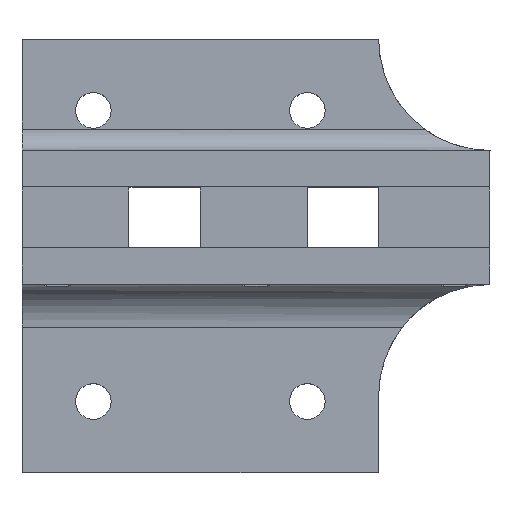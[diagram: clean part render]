
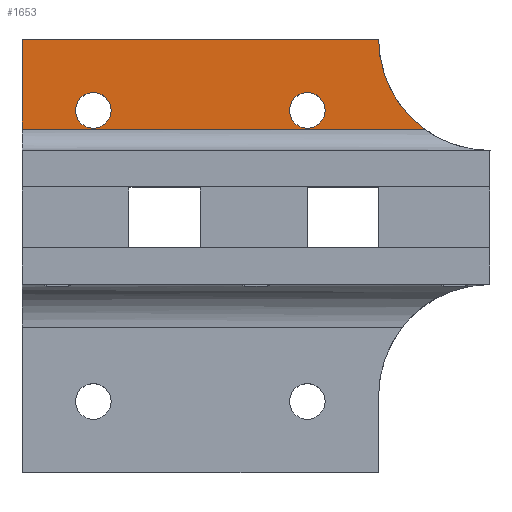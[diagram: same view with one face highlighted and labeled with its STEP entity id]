
A CAD part, top view. The second image highlights one B-rep face of the part: STEP entity #1653.
In plain terms, the highlighted planar face has unit normal (0, 0, 1).
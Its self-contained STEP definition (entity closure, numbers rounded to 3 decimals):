
#33 = PLANE('',#34);
#34 = AXIS2_PLACEMENT_3D('',#35,#36,#37);
#35 = CARTESIAN_POINT('',(-25.,-35.8,0.));
#36 = DIRECTION('',(-1.,0.,0.));
#37 = DIRECTION('',(0.,1.,0.));
#246 = VERTEX_POINT('',#247);
#247 = CARTESIAN_POINT('',(-25.,12.386,9.));
#262 = CYLINDRICAL_SURFACE('',#263,3.);
#263 = AXIS2_PLACEMENT_3D('',#264,#265,#266);
#264 = CARTESIAN_POINT('',(40.614,12.386,12.));
#265 = DIRECTION('',(-1.,0.,0.));
#266 = DIRECTION('',(0.,0.,-1.));
#274 = EDGE_CURVE('',#246,#275,#277,.T.);
#275 = VERTEX_POINT('',#276);
#276 = CARTESIAN_POINT('',(-25.,25.,9.));
#277 = SURFACE_CURVE('',#278,(#282,#288),.PCURVE_S1.);
#278 = LINE('',#279,#280);
#279 = CARTESIAN_POINT('',(-25.,-3.207,9.));
#280 = VECTOR('',#281,1.);
#281 = DIRECTION('',(0.,1.,0.));
#282 = PCURVE('',#33,#283);
#283 = DEFINITIONAL_REPRESENTATION('',(#284),#287);
#284 = B_SPLINE_CURVE_WITH_KNOTS('',1,(#285,#286),.UNSPECIFIED.,.F.,.F.,
  (2,2),(12.593,28.207),.PIECEWISE_BEZIER_KNOTS.);
#285 = CARTESIAN_POINT('',(45.186,-9.));
#286 = CARTESIAN_POINT('',(60.8,-9.));
#287 = ( GEOMETRIC_REPRESENTATION_CONTEXT(2) 
PARAMETRIC_REPRESENTATION_CONTEXT() REPRESENTATION_CONTEXT('2D SPACE',''
  ) );
#288 = PCURVE('',#289,#294);
#289 = PLANE('',#290);
#290 = AXIS2_PLACEMENT_3D('',#291,#292,#293);
#291 = CARTESIAN_POINT('',(-29.386,29.386,9.));
#292 = DIRECTION('',(0.,0.,1.));
#293 = DIRECTION('',(1.,0.,0.));
#294 = DEFINITIONAL_REPRESENTATION('',(#295),#298);
#295 = B_SPLINE_CURVE_WITH_KNOTS('',1,(#296,#297),.UNSPECIFIED.,.F.,.F.,
  (2,2),(12.593,28.207),.PIECEWISE_BEZIER_KNOTS.);
#296 = CARTESIAN_POINT('',(4.386,-20.));
#297 = CARTESIAN_POINT('',(4.386,-4.386));
#298 = ( GEOMETRIC_REPRESENTATION_CONTEXT(2) 
PARAMETRIC_REPRESENTATION_CONTEXT() REPRESENTATION_CONTEXT('2D SPACE',''
  ) );
#316 = PLANE('',#317);
#317 = AXIS2_PLACEMENT_3D('',#318,#319,#320);
#318 = CARTESIAN_POINT('',(-25.,25.,0.));
#319 = DIRECTION('',(0.,1.,0.));
#320 = DIRECTION('',(1.,0.,0.));
#1264 = CYLINDRICAL_SURFACE('',#1265,15.614);
#1265 = AXIS2_PLACEMENT_3D('',#1266,#1267,#1268);
#1266 = CARTESIAN_POINT('',(40.614,25.,0.));
#1267 = DIRECTION('',(-0.,-0.,-1.));
#1268 = DIRECTION('',(1.,0.,0.));
#1414 = CYLINDRICAL_SURFACE('',#1415,2.5);
#1415 = AXIS2_PLACEMENT_3D('',#1416,#1417,#1418);
#1416 = CARTESIAN_POINT('',(-15.,15.,0.));
#1417 = DIRECTION('',(-0.,-0.,-1.));
#1418 = DIRECTION('',(1.,0.,0.));
#1569 = CYLINDRICAL_SURFACE('',#1570,2.5);
#1570 = AXIS2_PLACEMENT_3D('',#1571,#1572,#1573);
#1571 = CARTESIAN_POINT('',(15.,15.,0.));
#1572 = DIRECTION('',(-0.,-0.,-1.));
#1573 = DIRECTION('',(1.,0.,0.));
#1612 = EDGE_CURVE('',#275,#1613,#1615,.T.);
#1613 = VERTEX_POINT('',#1614);
#1614 = CARTESIAN_POINT('',(25.,25.,9.));
#1615 = SURFACE_CURVE('',#1616,(#1620,#1626),.PCURVE_S1.);
#1616 = LINE('',#1617,#1618);
#1617 = CARTESIAN_POINT('',(-27.193,25.,9.));
#1618 = VECTOR('',#1619,1.);
#1619 = DIRECTION('',(1.,0.,0.));
#1620 = PCURVE('',#316,#1621);
#1621 = DEFINITIONAL_REPRESENTATION('',(#1622),#1625);
#1622 = B_SPLINE_CURVE_WITH_KNOTS('',1,(#1623,#1624),.UNSPECIFIED.,.F.,
  .F.,(2,2),(2.193,52.193),.PIECEWISE_BEZIER_KNOTS.);
#1623 = CARTESIAN_POINT('',(0.,-9.));
#1624 = CARTESIAN_POINT('',(50.,-9.));
#1625 = ( GEOMETRIC_REPRESENTATION_CONTEXT(2) 
PARAMETRIC_REPRESENTATION_CONTEXT() REPRESENTATION_CONTEXT('2D SPACE',''
  ) );
#1626 = PCURVE('',#289,#1627);
#1627 = DEFINITIONAL_REPRESENTATION('',(#1628),#1631);
#1628 = B_SPLINE_CURVE_WITH_KNOTS('',1,(#1629,#1630),.UNSPECIFIED.,.F.,
  .F.,(2,2),(2.193,52.193),.PIECEWISE_BEZIER_KNOTS.);
#1629 = CARTESIAN_POINT('',(4.386,-4.386));
#1630 = CARTESIAN_POINT('',(54.386,-4.386));
#1631 = ( GEOMETRIC_REPRESENTATION_CONTEXT(2) 
PARAMETRIC_REPRESENTATION_CONTEXT() REPRESENTATION_CONTEXT('2D SPACE',''
  ) );
#1653 = ADVANCED_FACE('',(#1654,#1707,#1737),#289,.T.);
#1654 = FACE_BOUND('',#1655,.T.);
#1655 = EDGE_LOOP('',(#1656,#1657,#1680,#1706));
#1656 = ORIENTED_EDGE('',*,*,#274,.F.);
#1657 = ORIENTED_EDGE('',*,*,#1658,.F.);
#1658 = EDGE_CURVE('',#1659,#246,#1661,.T.);
#1659 = VERTEX_POINT('',#1660);
#1660 = CARTESIAN_POINT('',(31.412,12.386,9.));
#1661 = SURFACE_CURVE('',#1662,(#1666,#1673),.PCURVE_S1.);
#1662 = LINE('',#1663,#1664);
#1663 = CARTESIAN_POINT('',(40.614,12.386,9.));
#1664 = VECTOR('',#1665,1.);
#1665 = DIRECTION('',(-1.,0.,0.));
#1666 = PCURVE('',#289,#1667);
#1667 = DEFINITIONAL_REPRESENTATION('',(#1668),#1672);
#1668 = LINE('',#1669,#1670);
#1669 = CARTESIAN_POINT('',(70.,-17.));
#1670 = VECTOR('',#1671,1.);
#1671 = DIRECTION('',(-1.,0.));
#1672 = ( GEOMETRIC_REPRESENTATION_CONTEXT(2) 
PARAMETRIC_REPRESENTATION_CONTEXT() REPRESENTATION_CONTEXT('2D SPACE',''
  ) );
#1673 = PCURVE('',#262,#1674);
#1674 = DEFINITIONAL_REPRESENTATION('',(#1675),#1679);
#1675 = LINE('',#1676,#1677);
#1676 = CARTESIAN_POINT('',(0.,0.));
#1677 = VECTOR('',#1678,1.);
#1678 = DIRECTION('',(0.,1.));
#1679 = ( GEOMETRIC_REPRESENTATION_CONTEXT(2) 
PARAMETRIC_REPRESENTATION_CONTEXT() REPRESENTATION_CONTEXT('2D SPACE',''
  ) );
#1680 = ORIENTED_EDGE('',*,*,#1681,.T.);
#1681 = EDGE_CURVE('',#1659,#1613,#1682,.T.);
#1682 = SURFACE_CURVE('',#1683,(#1688,#1699),.PCURVE_S1.);
#1683 = CIRCLE('',#1684,15.614);
#1684 = AXIS2_PLACEMENT_3D('',#1685,#1686,#1687);
#1685 = CARTESIAN_POINT('',(40.614,25.,9.));
#1686 = DIRECTION('',(0.,0.,-1.));
#1687 = DIRECTION('',(1.,0.,0.));
#1688 = PCURVE('',#289,#1689);
#1689 = DEFINITIONAL_REPRESENTATION('',(#1690),#1698);
#1690 = ( BOUNDED_CURVE() B_SPLINE_CURVE(2,(#1691,#1692,#1693,#1694,
#1695,#1696,#1697),.UNSPECIFIED.,.F.,.F.) B_SPLINE_CURVE_WITH_KNOTS((1,2
    ,2,2,2,1),(-2.094,0.,2.094,4.189,
6.283,8.378),.UNSPECIFIED.) CURVE() 
GEOMETRIC_REPRESENTATION_ITEM() RATIONAL_B_SPLINE_CURVE((1.,0.5,1.,0.5,
1.,0.5,1.)) REPRESENTATION_ITEM('') );
#1691 = CARTESIAN_POINT('',(85.614,-4.386));
#1692 = CARTESIAN_POINT('',(85.614,-31.43));
#1693 = CARTESIAN_POINT('',(62.193,-17.908));
#1694 = CARTESIAN_POINT('',(38.771,-4.386));
#1695 = CARTESIAN_POINT('',(62.193,9.137));
#1696 = CARTESIAN_POINT('',(85.614,22.659));
#1697 = CARTESIAN_POINT('',(85.614,-4.386));
#1698 = ( GEOMETRIC_REPRESENTATION_CONTEXT(2) 
PARAMETRIC_REPRESENTATION_CONTEXT() REPRESENTATION_CONTEXT('2D SPACE',''
  ) );
#1699 = PCURVE('',#1264,#1700);
#1700 = DEFINITIONAL_REPRESENTATION('',(#1701),#1705);
#1701 = LINE('',#1702,#1703);
#1702 = CARTESIAN_POINT('',(-6.283,-9.));
#1703 = VECTOR('',#1704,1.);
#1704 = DIRECTION('',(1.,-0.));
#1705 = ( GEOMETRIC_REPRESENTATION_CONTEXT(2) 
PARAMETRIC_REPRESENTATION_CONTEXT() REPRESENTATION_CONTEXT('2D SPACE',''
  ) );
#1706 = ORIENTED_EDGE('',*,*,#1612,.F.);
#1707 = FACE_BOUND('',#1708,.T.);
#1708 = EDGE_LOOP('',(#1709));
#1709 = ORIENTED_EDGE('',*,*,#1710,.T.);
#1710 = EDGE_CURVE('',#1711,#1711,#1713,.T.);
#1711 = VERTEX_POINT('',#1712);
#1712 = CARTESIAN_POINT('',(-12.5,15.,9.));
#1713 = SURFACE_CURVE('',#1714,(#1719,#1730),.PCURVE_S1.);
#1714 = CIRCLE('',#1715,2.5);
#1715 = AXIS2_PLACEMENT_3D('',#1716,#1717,#1718);
#1716 = CARTESIAN_POINT('',(-15.,15.,9.));
#1717 = DIRECTION('',(0.,0.,-1.));
#1718 = DIRECTION('',(1.,0.,0.));
#1719 = PCURVE('',#289,#1720);
#1720 = DEFINITIONAL_REPRESENTATION('',(#1721),#1729);
#1721 = ( BOUNDED_CURVE() B_SPLINE_CURVE(2,(#1722,#1723,#1724,#1725,
#1726,#1727,#1728),.UNSPECIFIED.,.F.,.F.) B_SPLINE_CURVE_WITH_KNOTS((1,2
    ,2,2,2,1),(-2.094,0.,2.094,4.189,
6.283,8.378),.UNSPECIFIED.) CURVE() 
GEOMETRIC_REPRESENTATION_ITEM() RATIONAL_B_SPLINE_CURVE((1.,0.5,1.,0.5,
1.,0.5,1.)) REPRESENTATION_ITEM('') );
#1722 = CARTESIAN_POINT('',(16.886,-14.386));
#1723 = CARTESIAN_POINT('',(16.886,-18.716));
#1724 = CARTESIAN_POINT('',(13.136,-16.551));
#1725 = CARTESIAN_POINT('',(9.386,-14.386));
#1726 = CARTESIAN_POINT('',(13.136,-12.221));
#1727 = CARTESIAN_POINT('',(16.886,-10.056));
#1728 = CARTESIAN_POINT('',(16.886,-14.386));
#1729 = ( GEOMETRIC_REPRESENTATION_CONTEXT(2) 
PARAMETRIC_REPRESENTATION_CONTEXT() REPRESENTATION_CONTEXT('2D SPACE',''
  ) );
#1730 = PCURVE('',#1414,#1731);
#1731 = DEFINITIONAL_REPRESENTATION('',(#1732),#1736);
#1732 = LINE('',#1733,#1734);
#1733 = CARTESIAN_POINT('',(-6.283,-9.));
#1734 = VECTOR('',#1735,1.);
#1735 = DIRECTION('',(1.,-0.));
#1736 = ( GEOMETRIC_REPRESENTATION_CONTEXT(2) 
PARAMETRIC_REPRESENTATION_CONTEXT() REPRESENTATION_CONTEXT('2D SPACE',''
  ) );
#1737 = FACE_BOUND('',#1738,.T.);
#1738 = EDGE_LOOP('',(#1739));
#1739 = ORIENTED_EDGE('',*,*,#1740,.T.);
#1740 = EDGE_CURVE('',#1741,#1741,#1743,.T.);
#1741 = VERTEX_POINT('',#1742);
#1742 = CARTESIAN_POINT('',(17.5,15.,9.));
#1743 = SURFACE_CURVE('',#1744,(#1749,#1760),.PCURVE_S1.);
#1744 = CIRCLE('',#1745,2.5);
#1745 = AXIS2_PLACEMENT_3D('',#1746,#1747,#1748);
#1746 = CARTESIAN_POINT('',(15.,15.,9.));
#1747 = DIRECTION('',(0.,0.,-1.));
#1748 = DIRECTION('',(1.,0.,0.));
#1749 = PCURVE('',#289,#1750);
#1750 = DEFINITIONAL_REPRESENTATION('',(#1751),#1759);
#1751 = ( BOUNDED_CURVE() B_SPLINE_CURVE(2,(#1752,#1753,#1754,#1755,
#1756,#1757,#1758),.UNSPECIFIED.,.F.,.F.) B_SPLINE_CURVE_WITH_KNOTS((1,2
    ,2,2,2,1),(-2.094,0.,2.094,4.189,
6.283,8.378),.UNSPECIFIED.) CURVE() 
GEOMETRIC_REPRESENTATION_ITEM() RATIONAL_B_SPLINE_CURVE((1.,0.5,1.,0.5,
1.,0.5,1.)) REPRESENTATION_ITEM('') );
#1752 = CARTESIAN_POINT('',(46.886,-14.386));
#1753 = CARTESIAN_POINT('',(46.886,-18.716));
#1754 = CARTESIAN_POINT('',(43.136,-16.551));
#1755 = CARTESIAN_POINT('',(39.386,-14.386));
#1756 = CARTESIAN_POINT('',(43.136,-12.221));
#1757 = CARTESIAN_POINT('',(46.886,-10.056));
#1758 = CARTESIAN_POINT('',(46.886,-14.386));
#1759 = ( GEOMETRIC_REPRESENTATION_CONTEXT(2) 
PARAMETRIC_REPRESENTATION_CONTEXT() REPRESENTATION_CONTEXT('2D SPACE',''
  ) );
#1760 = PCURVE('',#1569,#1761);
#1761 = DEFINITIONAL_REPRESENTATION('',(#1762),#1766);
#1762 = LINE('',#1763,#1764);
#1763 = CARTESIAN_POINT('',(-6.283,-9.));
#1764 = VECTOR('',#1765,1.);
#1765 = DIRECTION('',(1.,-0.));
#1766 = ( GEOMETRIC_REPRESENTATION_CONTEXT(2) 
PARAMETRIC_REPRESENTATION_CONTEXT() REPRESENTATION_CONTEXT('2D SPACE',''
  ) );
